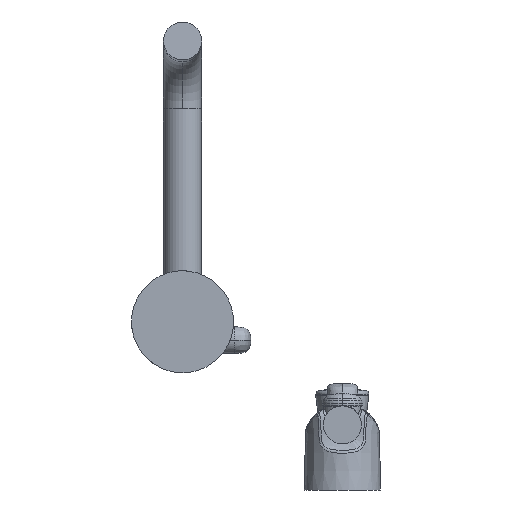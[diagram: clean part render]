
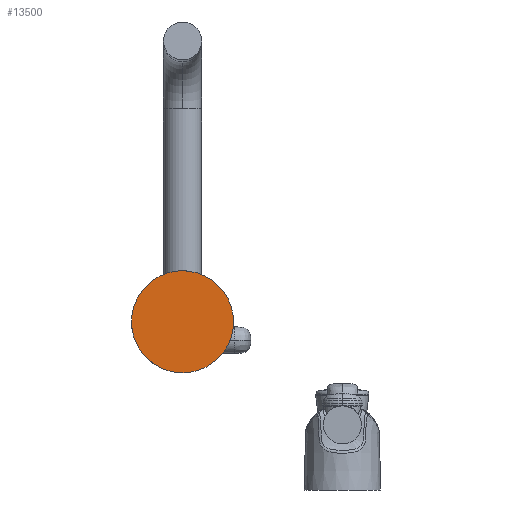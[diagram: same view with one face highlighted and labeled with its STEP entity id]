
A CAD part, front view. The second image highlights one B-rep face of the part: STEP entity #13500.
In plain terms, the highlighted planar face has unit normal (0, -1, 0).
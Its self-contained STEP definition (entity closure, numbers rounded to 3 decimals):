
#340 = FACE_OUTER_BOUND ( 'NONE', #3465, .T. ) ;
#1471 = EDGE_CURVE ( 'NONE', #12085, #8135, #9878, .T. ) ;
#1533 = CARTESIAN_POINT ( 'NONE',  ( -3.758, 0.2, -30.439 ) ) ;
#1550 = CARTESIAN_POINT ( 'NONE',  ( -2.916, 0.2, -30.542 ) ) ;
#1560 = CARTESIAN_POINT ( 'NONE',  ( -1.239, 0.2, -30.679 ) ) ;
#1561 = CARTESIAN_POINT ( 'NONE',  ( 1.245, 0.2, -30.681 ) ) ;
#1580 = CARTESIAN_POINT ( 'NONE',  ( 3.69, 0.2, -30.485 ) ) ;
#1601 = CARTESIAN_POINT ( 'NONE',  ( 18.063, 0.2, -28.17 ) ) ;
#1634 = CARTESIAN_POINT ( 'NONE',  ( 3.758, 0.2, 30.6 ) ) ;
#1654 = CARTESIAN_POINT ( 'NONE',  ( 20.602, 0.2, 28.526 ) ) ;
#2481 = CARTESIAN_POINT ( 'NONE',  ( 0., 0.2, 0.081 ) ) ;
#2907 = B_SPLINE_CURVE_WITH_KNOTS ( 'NONE', 3,
 ( #8191, #15628, #11939, #4446, #13218, #5726, #14453, #6993, #15680, #8246 ),
 .UNSPECIFIED., .F., .F.,
 ( 4, 1, 1, 1, 1, 2, 4 ),
 ( 0., 0.002, 0.005, 0.007, 0.01, 0.048, 0.096 ),
 .UNSPECIFIED. ) ;
#2923 = CARTESIAN_POINT ( 'NONE',  ( 28.86, 0.2, -17.152 ) ) ;
#3465 = EDGE_LOOP ( 'NONE', ( #10534, #7103 ) ) ;
#3736 = DIRECTION ( 'NONE',  ( 0., 1., 0. ) ) ;
#4446 = CARTESIAN_POINT ( 'NONE',  ( -8.671, 0.2, -29.46 ) ) ;
#5726 = CARTESIAN_POINT ( 'NONE',  ( -24.377, 0.2, -22.944 ) ) ;
#6488 = CARTESIAN_POINT ( 'NONE',  ( 32.594, 0.2, 13.167 ) ) ;
#6993 = CARTESIAN_POINT ( 'NONE',  ( -28.445, 0.2, 20.683 ) ) ;
#7103 = ORIENTED_EDGE ( 'NONE', *, *, #1471, .F. ) ;
#8135 = VERTEX_POINT ( 'NONE', #9688 ) ;
#8191 = CARTESIAN_POINT ( 'NONE',  ( -3.758, 0.2, -30.439 ) ) ;
#8246 = CARTESIAN_POINT ( 'NONE',  ( 3.758, 0.2, 30.6 ) ) ;
#8447 = EDGE_CURVE ( 'NONE', #8135, #12085, #2907, .T. ) ;
#9688 = CARTESIAN_POINT ( 'NONE',  ( -3.758, 0.2, -30.439 ) ) ;
#9878 = B_SPLINE_CURVE_WITH_KNOTS ( 'NONE', 3,
 ( #1634, #1654, #6488, #2923, #1601, #1580, #1561, #1560, #1550, #1533 ),
 .UNSPECIFIED., .F., .F.,
 ( 4, 2, 1, 1, 1, 1, 4 ),
 ( 0.096, 0.144, 0.182, 0.185, 0.187, 0.189, 0.192 ),
 .UNSPECIFIED. ) ;
#10534 = ORIENTED_EDGE ( 'NONE', *, *, #8447, .F. ) ;
#10574 = AXIS2_PLACEMENT_3D ( 'NONE', #2481, #3736, #12493 ) ;
#11939 = CARTESIAN_POINT ( 'NONE',  ( -6.26, 0.2, -30.061 ) ) ;
#12085 = VERTEX_POINT ( 'NONE', #13462 ) ;
#12493 = DIRECTION ( 'NONE',  ( 0., 0., -1. ) ) ;
#13218 = CARTESIAN_POINT ( 'NONE',  ( -10.995, 0.2, -28.677 ) ) ;
#13462 = CARTESIAN_POINT ( 'NONE',  ( 3.758, 0.2, 30.6 ) ) ;
#13500 = ADVANCED_FACE ( 'NONE', ( #340 ), #13710, .F. ) ;
#13710 = PLANE ( 'NONE',  #10574 ) ;
#14453 = CARTESIAN_POINT ( 'NONE',  ( -32.179, 0.2, -9.636 ) ) ;
#15628 = CARTESIAN_POINT ( 'NONE',  ( -4.6, 0.2, -30.335 ) ) ;
#15680 = CARTESIAN_POINT ( 'NONE',  ( -13.086, 0.2, 32.675 ) ) ;
